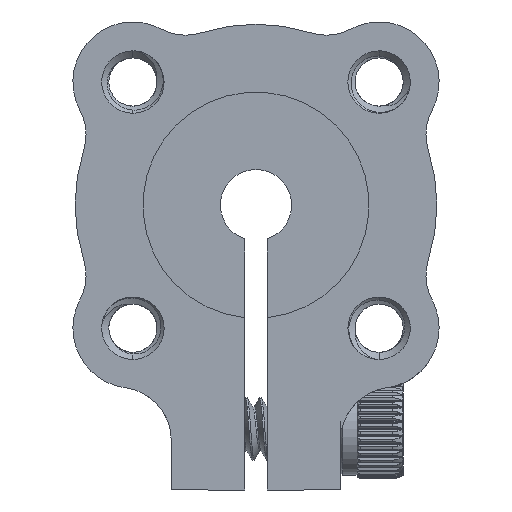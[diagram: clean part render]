
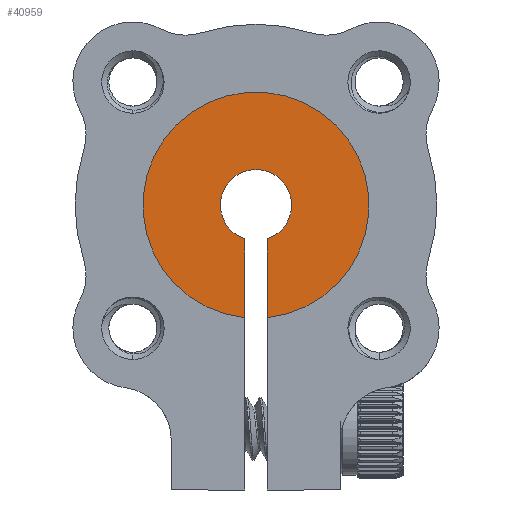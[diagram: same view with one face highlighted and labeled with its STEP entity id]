
A CAD part, front view. The second image highlights one B-rep face of the part: STEP entity #40959.
In plain terms, the highlighted planar face has unit normal (0, -1, 0).
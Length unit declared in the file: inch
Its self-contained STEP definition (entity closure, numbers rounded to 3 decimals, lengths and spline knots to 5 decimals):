
#53 = LINE ( 'NONE', #23553, #51883 ) ;
#2675 = LINE ( 'NONE', #47679, #39184 ) ;
#5361 = DIRECTION ( 'NONE',  ( 0., 0., -1. ) ) ;
#6050 = DIRECTION ( 'NONE',  ( 0., 0., -1. ) ) ;
#8999 = DIRECTION ( 'NONE',  ( 0., 1., 0. ) ) ;
#9550 = DIRECTION ( 'NONE',  ( 0., 0., 1. ) ) ;
#10216 = CARTESIAN_POINT ( 'NONE',  ( 0.025, 0., -0.24875 ) ) ;
#10936 = CIRCLE ( 'NONE', #41860, 0.07874 ) ;
#13793 = ORIENTED_EDGE ( 'NONE', *, *, #29023, .F. ) ;
#13962 = EDGE_CURVE ( 'NONE', #39297, #52923, #10936, .T. ) ;
#17047 = CIRCLE ( 'NONE', #18984, 0.25 ) ;
#17718 = FACE_OUTER_BOUND ( 'NONE', #30721, .T. ) ;
#18984 = AXIS2_PLACEMENT_3D ( 'NONE', #36243, #28218, #36796 ) ;
#20312 = ORIENTED_EDGE ( 'NONE', *, *, #13962, .F. ) ;
#21499 = ORIENTED_EDGE ( 'NONE', *, *, #37056, .T. ) ;
#23314 = CARTESIAN_POINT ( 'NONE',  ( 0., 0., 0. ) ) ;
#23553 = CARTESIAN_POINT ( 'NONE',  ( -0.025, 0., -0.39922 ) ) ;
#27980 = DIRECTION ( 'NONE',  ( 0., 0., 1. ) ) ;
#28218 = DIRECTION ( 'NONE',  ( 0., 1., 0. ) ) ;
#29023 = EDGE_CURVE ( 'NONE', #43076, #46619, #17047, .T. ) ;
#30721 = EDGE_LOOP ( 'NONE', ( #20312, #36038, #13793, #21499 ) ) ;
#34469 = CARTESIAN_POINT ( 'NONE',  ( 0., 0., 0. ) ) ;
#34648 = PLANE ( 'NONE',  #34782 ) ;
#34782 = AXIS2_PLACEMENT_3D ( 'NONE', #34469, #8999, #9550 ) ;
#36038 = ORIENTED_EDGE ( 'NONE', *, *, #45045, .T. ) ;
#36243 = CARTESIAN_POINT ( 'NONE',  ( 0., 0., 0. ) ) ;
#36796 = DIRECTION ( 'NONE',  ( 0., 0., 1. ) ) ;
#36998 = CARTESIAN_POINT ( 'NONE',  ( 0.025, 0., -0.07467 ) ) ;
#37056 = EDGE_CURVE ( 'NONE', #43076, #52923, #53, .T. ) ;
#38942 = CARTESIAN_POINT ( 'NONE',  ( -0.025, 0., -0.07467 ) ) ;
#39184 = VECTOR ( 'NONE', #5361, 39.37008 ) ;
#39297 = VERTEX_POINT ( 'NONE', #36998 ) ;
#40006 = DIRECTION ( 'NONE',  ( 0., -1., 0. ) ) ;
#40959 = ADVANCED_FACE ( 'NONE', ( #17718 ), #34648, .F. ) ;
#41860 = AXIS2_PLACEMENT_3D ( 'NONE', #23314, #40006, #6050 ) ;
#43076 = VERTEX_POINT ( 'NONE', #43963 ) ;
#43963 = CARTESIAN_POINT ( 'NONE',  ( -0.025, 0., -0.24875 ) ) ;
#45045 = EDGE_CURVE ( 'NONE', #39297, #46619, #2675, .T. ) ;
#46619 = VERTEX_POINT ( 'NONE', #10216 ) ;
#47679 = CARTESIAN_POINT ( 'NONE',  ( 0.025, 0., -0.39922 ) ) ;
#51883 = VECTOR ( 'NONE', #27980, 39.37008 ) ;
#52923 = VERTEX_POINT ( 'NONE', #38942 ) ;
